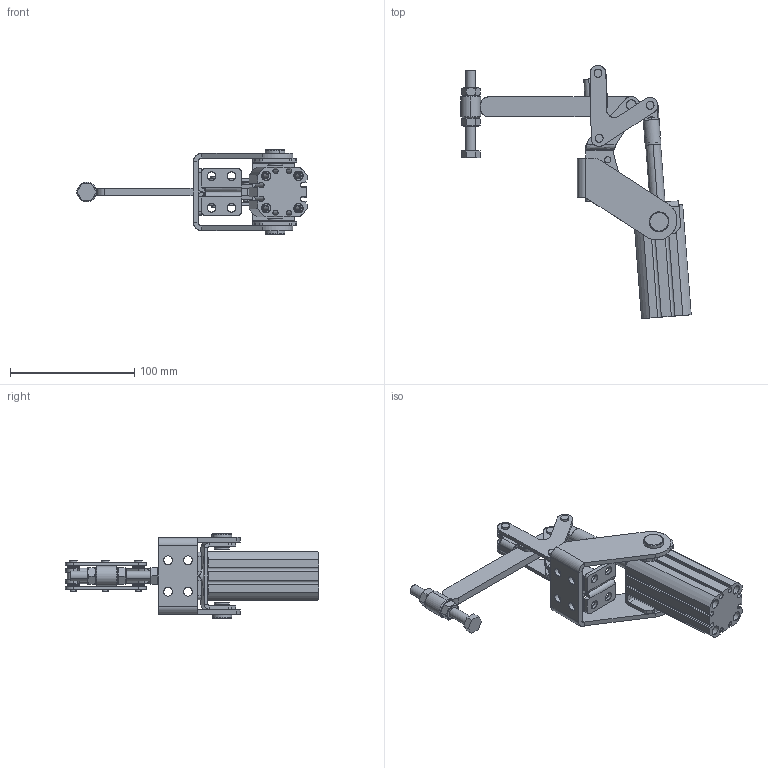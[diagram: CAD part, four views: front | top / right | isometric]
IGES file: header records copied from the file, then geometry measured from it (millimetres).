
Start section: SolidWorks IGES file using analytic representation for surfaces
Global section: file name: C:\Projetos\Grampos\KF-718 P\KF-718 S P\KF-718 S P.IGS; native system: SolidWorks 2013; preprocessor: SolidWorks 2013; author: Ricardo; date: 140828.164846; units: millimetre
Bounding box: 185.1 x 203.47 x 68 mm (x, y, z)
Surface area: 104571.6 mm2 (no closed solid volume)
Topology: 0 solids, 0 shells, 800 faces, 13026 edges, 13010 vertices
Faces by surface type: revolution 516, bspline 284
